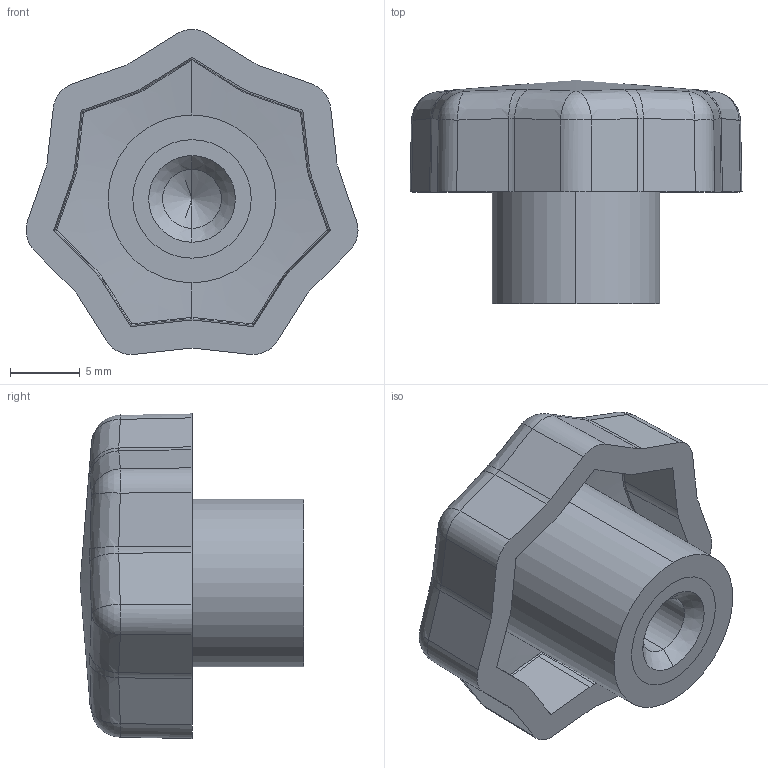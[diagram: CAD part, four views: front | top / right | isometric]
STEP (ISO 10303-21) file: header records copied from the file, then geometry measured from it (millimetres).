
FILE_DESCRIPTION (( 'STEP AP203' ), '1' );
FILE_NAME ('AP-1020-25-M5.STEP', '2015-11-23T09:58:08', ( '' ), ( '' ), 'SwSTEP 2.0', 'SolidWorks 2014', '' );
FILE_SCHEMA (( 'CONFIG_CONTROL_DESIGN' ));
Length unit declared in the file: millimetre
Products named in the file (1): AP-1020-25-M5
Bounding box: 23.74 x 16 x 23.25 mm (x, y, z)
Surface area: 3421.7 mm2 (no closed solid volume)
Topology: 0 solids, 3 shells, 162 faces, 374 edges, 222 vertices
Faces by surface type: cylinder 58, bspline 42, plane 40, sphere 14, cone 8
Entity records: 4939 total; most frequent: CARTESIAN_POINT 1589, ORIENTED_EDGE 736, DIRECTION 612, EDGE_CURVE 370, AXIS2_PLACEMENT_3D 245, VERTEX_POINT 222, EDGE_LOOP 172, ADVANCED_FACE 162
